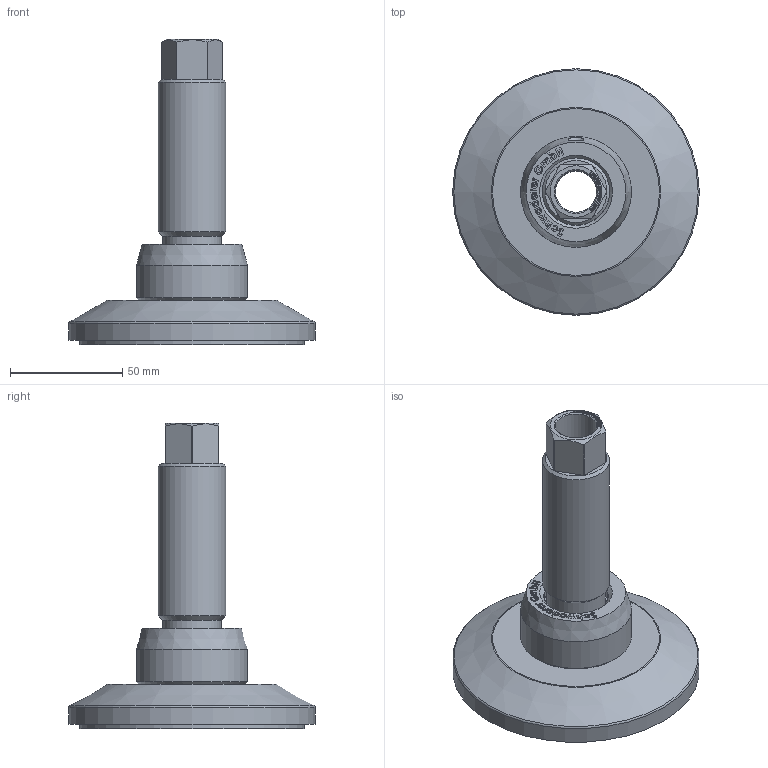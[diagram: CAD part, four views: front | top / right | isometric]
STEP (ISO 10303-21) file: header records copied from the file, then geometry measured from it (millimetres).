
FILE_DESCRIPTION(/* description */ ('JCM 100C - M30 - S6'),/* implementation_level */ '2;1');
FILE_NAME(/* name */ 'C:\Users\Public\Documents\Autodesk\Inventor LT 2016\Workspace\Fussplatte+Blechteller\JCMHD 100C - S6.stp',/* time_stamp */ '2017-01-10T11:14:05+01:00',/* author */ ('T. Rey'),/* organization */ ('Schwaderer GmbH Robert-Bosch-Str. 10 71563 Affalterbach'),/* preprocessor_version */ 'ST-DEVELOPER v16.1',/* originating_system */ 'Autodesk Inventor LT ',/* authorisation */ '');
FILE_SCHEMA (('CONFIG_CONTROL_DESIGN'));
Length unit declared in the file: millimetre
Products named in the file (1): JCM - M30
Bounding box: 110 x 110 x 136.4 mm (x, y, z)
Volume: 223305.6 mm3; surface area: 68103 mm2
Topology: 4 solids, 4 shells, 479 faces, 1260 edges, 829 vertices
Faces by surface type: plane 243, bspline 192, cylinder 23, cone 17, torus 3, sphere 1
Full cylindrical faces by diameter (mm): 5 x1, 18.5 x2, 25 x1, 26 x1, 26.5 x1, 27.5 x1, 28.5 x2, 30 x2, 31 x1, 49.5 x1, 100 x2, 110 x1
Entity records: 15628 total; most frequent: CARTESIAN_POINT 5181, ORIENTED_EDGE 2440, DIRECTION 1468, EDGE_CURVE 1220, VERTEX_POINT 824, LINE 750, VECTOR 750, EDGE_LOOP 564
